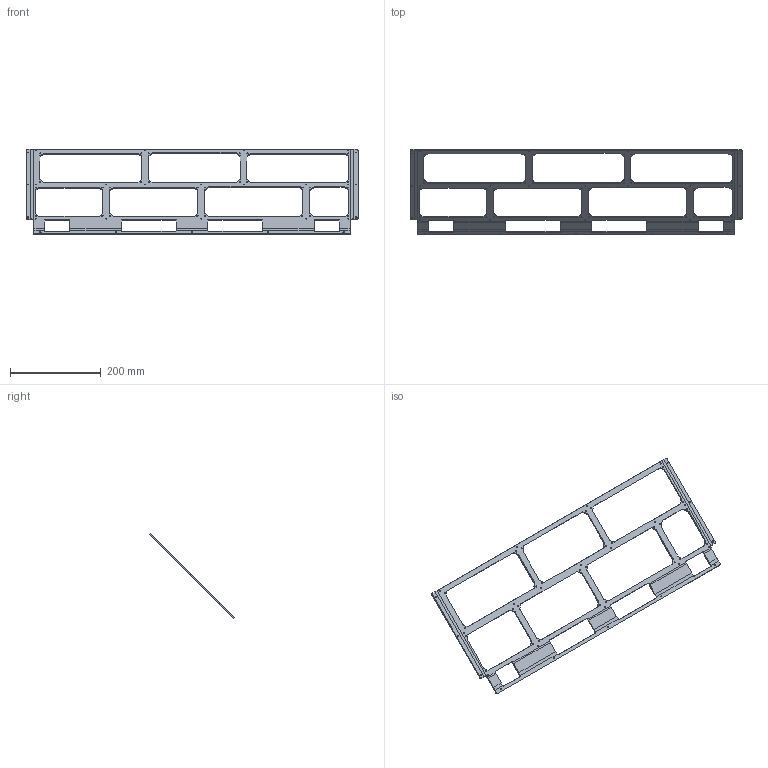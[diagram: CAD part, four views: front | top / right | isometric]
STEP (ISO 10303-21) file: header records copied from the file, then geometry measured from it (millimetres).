
FILE_DESCRIPTION(/* description */ (''),/* implementation_level */ '2;1');
FILE_NAME(/* name */ 'C:/Users/anton/Documents/Kerbal Space Program/Kerbal_Control_Panel/KCP2/CAD/ForManufacture/casing/Panel_MountingPlate_v96_FlatPattern.step',/* time_stamp */ '2020-11-16T22:05:18-08:00',/* author */ (''),/* organization */ (''),/* preprocessor_version */ 'ST-DEVELOPER v18.1',/* originating_system */ 'Autodesk Translation Framework v9.3.0.1241',/* authorisation */ '');
FILE_SCHEMA (('AUTOMOTIVE_DESIGN { 1 0 10303 214 3 1 1 }'));
Length unit declared in the file: millimetre
Products named in the file (1): Mounting Plate
Bounding box: 730.57 x 187.64 x 187.64 mm (x, y, z)
Volume: 177244 mm3; surface area: 139538.9 mm2
Topology: 1 solids, 1 shells, 291 faces, 797 edges, 500 vertices
Faces by surface type: plane 153, cylinder 136, bspline 2
Full cylindrical faces by diameter (mm): 2.529 x55
Entity records: 9525 total; most frequent: CARTESIAN_POINT 1649, DIRECTION 1643, ORIENTED_EDGE 1594, EDGE_CURVE 797, AXIS2_PLACEMENT_3D 562, LINE 519, VECTOR 519, VERTEX_POINT 500
